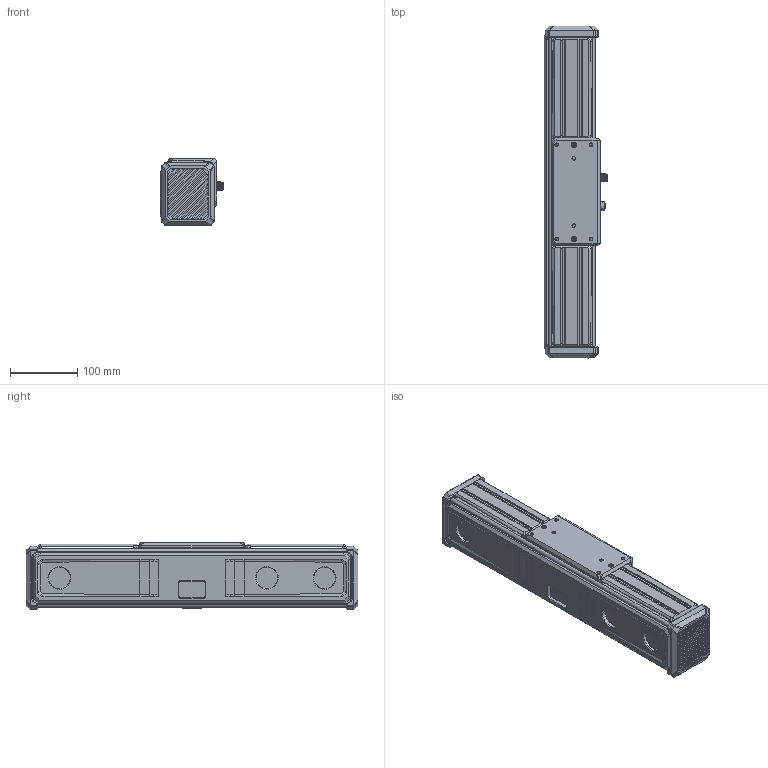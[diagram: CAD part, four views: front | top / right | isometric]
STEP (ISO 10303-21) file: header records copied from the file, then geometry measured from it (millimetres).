
FILE_DESCRIPTION((''),'2;1');
FILE_NAME('00-MUL-3D_ASM-22_SW0001','2022-07-04T20:08:23',('guodanfeng'),(''),'CREO PARAMETRIC BY PTC INC, 2017260','CREO PARAMETRIC BY PTC INC, 2017260','');
FILE_SCHEMA(('AUTOMOTIVE_DESIGN { 1 0 10303 214 1 1 1 1 }'));
Length unit declared in the file: millimetre
Products named in the file (1): 00-MUL-3D_ASM-22_SW0001
Bounding box: 94.5 x 492 x 99.2 mm (x, y, z)
Surface area: 289858.9 mm2 (no closed solid volume)
Topology: 0 solids, 40 shells, 895 faces, 2922 edges, 2064 vertices
Faces by surface type: plane 455, cylinder 235, cone 85, bspline 49, extrusion 34, torus 23, sphere 14
Entity records: 40281 total; most frequent: CARTESIAN_POINT 15708, ORIENTED_EDGE 4857, DIRECTION 4684, EDGE_CURVE 2900, VERTEX_POINT 2064, VECTOR 1704, LINE 1670, AXIS2_PLACEMENT_3D 1490
